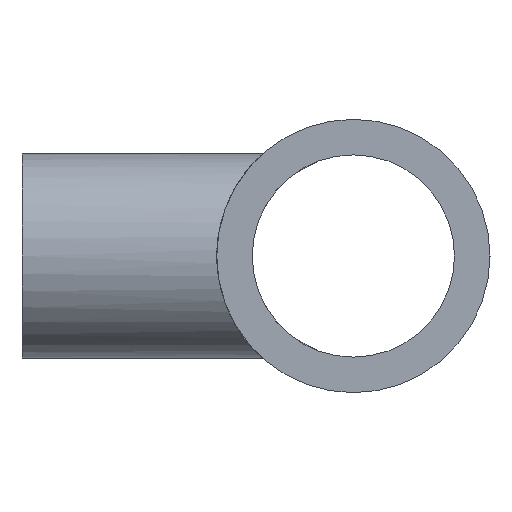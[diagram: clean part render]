
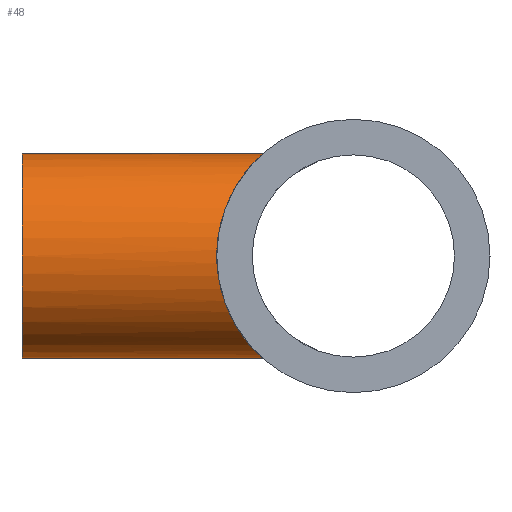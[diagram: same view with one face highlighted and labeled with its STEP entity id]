
A CAD part, left-side view. The second image highlights one B-rep face of the part: STEP entity #48.
In plain terms, the highlighted cylindrical face has radius 4.765 mm (diameter 9.53 mm), a partial arc.
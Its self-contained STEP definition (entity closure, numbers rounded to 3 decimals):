
#7 = AXIS2_PLACEMENT_3D ( 'NONE', #73, #403, #16 ) ;
#10 = VERTEX_POINT ( 'NONE', #482 ) ;
#16 = DIRECTION ( 'NONE',  ( 0., 0., 1. ) ) ;
#48 = ADVANCED_FACE ( 'NONE', ( #337 ), #306, .T. ) ;
#51 = ORIENTED_EDGE ( 'NONE', *, *, #487, .T. ) ;
#58 = VERTEX_POINT ( 'NONE', #424 ) ;
#73 = CARTESIAN_POINT ( 'NONE',  ( 0., -500000., 0. ) ) ;
#86 = LINE ( 'NONE', #280, #405 ) ;
#140 = EDGE_LOOP ( 'NONE', ( #176, #180, #161, #51 ) ) ;
#142 = VERTEX_POINT ( 'NONE', #400 ) ;
#161 = ORIENTED_EDGE ( 'NONE', *, *, #225, .T. ) ;
#176 = ORIENTED_EDGE ( 'NONE', *, *, #497, .F. ) ;
#179 = VERTEX_POINT ( 'NONE', #243 ) ;
#180 = ORIENTED_EDGE ( 'NONE', *, *, #445, .F. ) ;
#183 = CARTESIAN_POINT ( 'NONE',  ( -4.588, 6.218, 1.296 ) ) ;
#225 = EDGE_CURVE ( 'NONE', #58, #10, #302, .T. ) ;
#230 = DIRECTION ( 'NONE',  ( 0., 1., 0. ) ) ;
#238 = AXIS2_PLACEMENT_3D ( 'NONE', #485, #479, #476 ) ;
#243 = CARTESIAN_POINT ( 'NONE',  ( 0., 15.4, -4.765 ) ) ;
#259 = CARTESIAN_POINT ( 'NONE',  ( -4.105, 5.87, -2.438 ) ) ;
#261 = CARTESIAN_POINT ( 'NONE',  ( -4.257, 5.978, -2.163 ) ) ;
#263 = CARTESIAN_POINT ( 'NONE',  ( -4.505, 6.157, -1.584 ) ) ;
#266 = CARTESIAN_POINT ( 'NONE',  ( -4.733, 6.326, -0.639 ) ) ;
#270 = CARTESIAN_POINT ( 'NONE',  ( -4.602, 6.228, -1.279 ) ) ;
#272 = CARTESIAN_POINT ( 'NONE',  ( -4.765, 6.35, 0.174 ) ) ;
#273 = CARTESIAN_POINT ( 'NONE',  ( -4.434, 6.105, 1.752 ) ) ;
#276 = CARTESIAN_POINT ( 'NONE',  ( -4.491, 6.147, 1.602 ) ) ;
#279 = CARTESIAN_POINT ( 'NONE',  ( -0.651, 4.237, 4.731 ) ) ;
#280 = CARTESIAN_POINT ( 'NONE',  ( 0., -500000., -4.765 ) ) ;
#288 = CARTESIAN_POINT ( 'NONE',  ( -1.119, 4.341, 4.635 ) ) ;
#290 = CARTESIAN_POINT ( 'NONE',  ( -3.761, 5.635, -2.941 ) ) ;
#302 = LINE ( 'NONE', #433, #350 ) ;
#306 = CYLINDRICAL_SURFACE ( 'NONE', #7, 4.765 ) ;
#311 = CARTESIAN_POINT ( 'NONE',  ( -3.566, 5.505, -3.174 ) ) ;
#318 = CARTESIAN_POINT ( 'NONE',  ( 0., 4.197, 4.765 ) ) ;
#319 = CARTESIAN_POINT ( 'NONE',  ( -0.331, 4.197, 4.765 ) ) ;
#328 = DIRECTION ( 'NONE',  ( 0., 1., 0. ) ) ;
#332 = CARTESIAN_POINT ( 'NONE',  ( -3.14, 5.239, -3.597 ) ) ;
#335 = B_SPLINE_CURVE_WITH_KNOTS ( 'NONE', 3,
 ( #318, #319, #279, #288, #342, #336, #362, #475, #347, #345, #343, #356, #354, #361, #358, #273, #276, #183, #435, #439, #464, #502, #272, #357, #266, #270, #263, #261, #259, #290, #311, #332, #496, #495, #451, #478, #473, #469, #467, #453 ),
 .UNSPECIFIED., .F., .F.,
 ( 4, 2, 2, 2, 2, 2, 2, 2, 2, 2, 2, 2, 2, 2, 2, 2, 2, 2, 2, 4 ),
 ( 0., 0.001, 0.001, 0.002, 0.003, 0.004, 0.005, 0.006, 0.006, 0.007, 0.007, 0.008, 0.009, 0.01, 0.011, 0.012, 0.013, 0.014, 0.015, 0.016 ),
 .UNSPECIFIED. ) ;
#336 = CARTESIAN_POINT ( 'NONE',  ( -1.573, 4.48, 4.501 ) ) ;
#337 = FACE_OUTER_BOUND ( 'NONE', #140, .T. ) ;
#342 = CARTESIAN_POINT ( 'NONE',  ( -1.273, 4.384, 4.594 ) ) ;
#343 = CARTESIAN_POINT ( 'NONE',  ( -3.134, 5.235, 3.602 ) ) ;
#345 = CARTESIAN_POINT ( 'NONE',  ( -2.904, 5.1, 3.789 ) ) ;
#347 = CARTESIAN_POINT ( 'NONE',  ( -2.407, 4.834, 4.123 ) ) ;
#350 = VECTOR ( 'NONE', #328, 1000. ) ;
#354 = CARTESIAN_POINT ( 'NONE',  ( -3.755, 5.63, 2.949 ) ) ;
#356 = CARTESIAN_POINT ( 'NONE',  ( -3.559, 5.501, 3.182 ) ) ;
#357 = CARTESIAN_POINT ( 'NONE',  ( -4.766, 6.351, -0.316 ) ) ;
#358 = CARTESIAN_POINT ( 'NONE',  ( -4.247, 5.97, 2.184 ) ) ;
#361 = CARTESIAN_POINT ( 'NONE',  ( -4.098, 5.864, 2.451 ) ) ;
#362 = CARTESIAN_POINT ( 'NONE',  ( -1.718, 4.533, 4.447 ) ) ;
#400 = CARTESIAN_POINT ( 'NONE',  ( 0., 4.197, -4.765 ) ) ;
#403 = DIRECTION ( 'NONE',  ( 0., 1., 0. ) ) ;
#405 = VECTOR ( 'NONE', #230, 1000. ) ;
#424 = CARTESIAN_POINT ( 'NONE',  ( 0., 4.197, 4.765 ) ) ;
#433 = CARTESIAN_POINT ( 'NONE',  ( 0., -500000., 4.765 ) ) ;
#435 = CARTESIAN_POINT ( 'NONE',  ( -4.629, 6.249, 1.141 ) ) ;
#439 = CARTESIAN_POINT ( 'NONE',  ( -4.696, 6.298, 0.826 ) ) ;
#445 = EDGE_CURVE ( 'NONE', #58, #142, #335, .T. ) ;
#448 = CIRCLE ( 'NONE', #238, 4.765 ) ;
#451 = CARTESIAN_POINT ( 'NONE',  ( -2.148, 4.708, -4.265 ) ) ;
#453 = CARTESIAN_POINT ( 'NONE',  ( 0., 4.197, -4.765 ) ) ;
#464 = CARTESIAN_POINT ( 'NONE',  ( -4.721, 6.317, 0.666 ) ) ;
#467 = CARTESIAN_POINT ( 'NONE',  ( -0.331, 4.197, -4.765 ) ) ;
#469 = CARTESIAN_POINT ( 'NONE',  ( -0.654, 4.237, -4.731 ) ) ;
#473 = CARTESIAN_POINT ( 'NONE',  ( -1.287, 4.379, -4.599 ) ) ;
#475 = CARTESIAN_POINT ( 'NONE',  ( -2.14, 4.704, 4.268 ) ) ;
#476 = DIRECTION ( 'NONE',  ( 0., 0., 1. ) ) ;
#478 = CARTESIAN_POINT ( 'NONE',  ( -1.584, 4.479, -4.505 ) ) ;
#479 = DIRECTION ( 'NONE',  ( 0., -1., 0. ) ) ;
#482 = CARTESIAN_POINT ( 'NONE',  ( 0., 15.4, 4.765 ) ) ;
#485 = CARTESIAN_POINT ( 'NONE',  ( 0., 15.4, 0. ) ) ;
#487 = EDGE_CURVE ( 'NONE', #10, #179, #448, .T. ) ;
#495 = CARTESIAN_POINT ( 'NONE',  ( -2.416, 4.838, -4.118 ) ) ;
#496 = CARTESIAN_POINT ( 'NONE',  ( -2.91, 5.103, -3.785 ) ) ;
#497 = EDGE_CURVE ( 'NONE', #142, #179, #86, .T. ) ;
#502 = CARTESIAN_POINT ( 'NONE',  ( -4.756, 6.343, 0.34 ) ) ;
